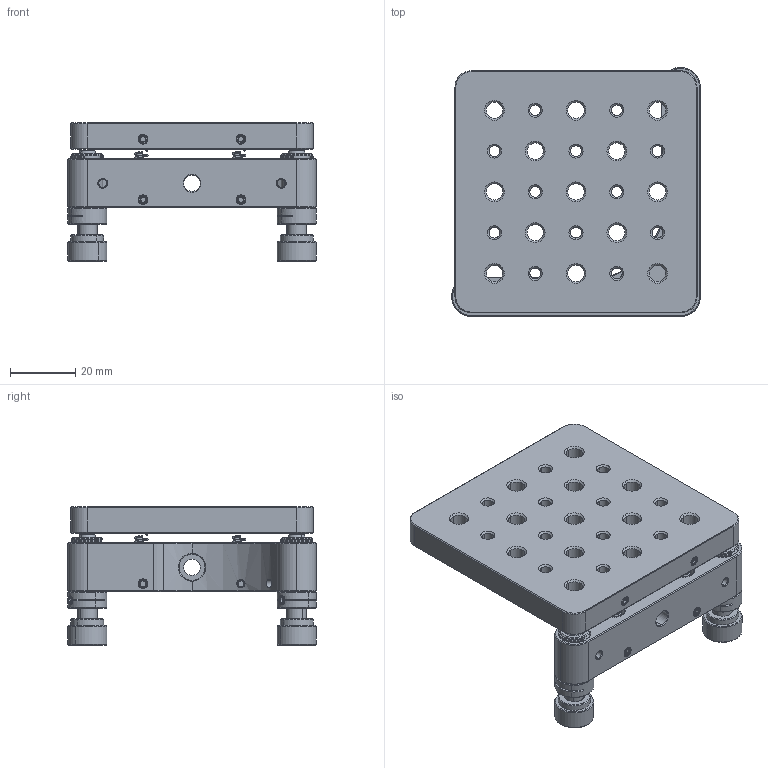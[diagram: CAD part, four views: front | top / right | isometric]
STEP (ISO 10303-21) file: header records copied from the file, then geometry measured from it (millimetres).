
FILE_DESCRIPTION (( 'STEP AP203' ), '1' );
FILE_NAME ('1.1.1.35_ZJB-P3.0-3_光学调整架，74.2mmx74.2mm，带M6螺纹安装孔平台，3轴，A.STEP', '2022-05-09T08:42:48', ( '' ), ( '' ), 'SwSTEP 2.0', 'SolidWorks 2021', '' );
FILE_SCHEMA (( 'CONFIG_CONTROL_DESIGN' ));
Products named in the file (1): 1.1.1.35_ZJB-P3.0-3_光学调整架，74.2mmx74.2mm，带M6螺纹安装孔平台，3轴，A
Bounding box: 76.2 x 76.2 x 42.34 mm (x, y, z)
Surface area: 31864.2 mm2 (no closed solid volume)
Topology: 0 solids, 46 shells, 662 faces, 1762 edges, 1123 vertices
Faces by surface type: cone 275, cylinder 198, plane 152, bspline 26, torus 6, sphere 5
Entity records: 76566 total; most frequent: CARTESIAN_POINT 60003, DIRECTION 3576, ORIENTED_EDGE 3142, EDGE_CURVE 1755, AXIS2_PLACEMENT_3D 1422, VERTEX_POINT 1123, EDGE_LOOP 804, CIRCLE 785
